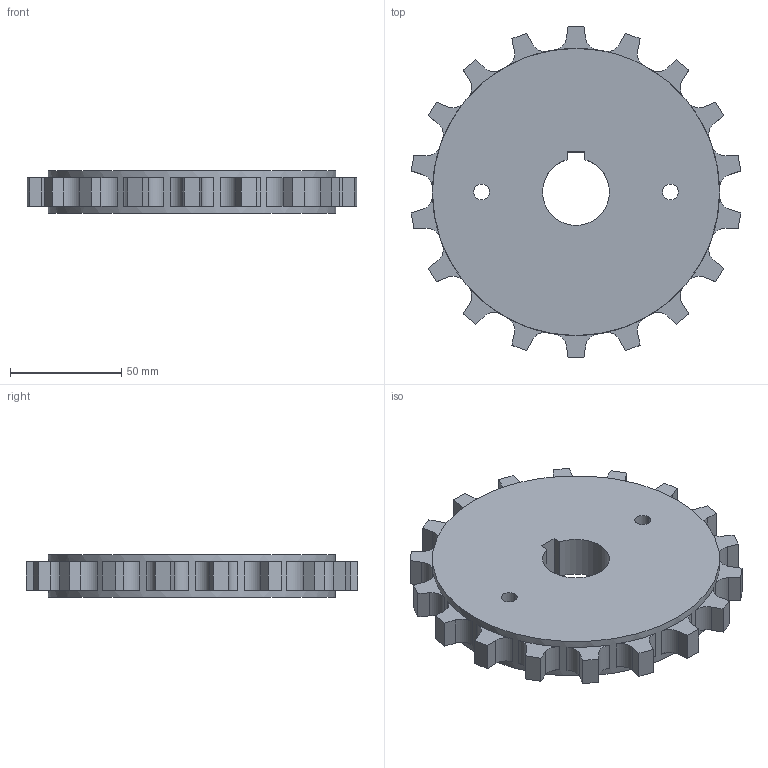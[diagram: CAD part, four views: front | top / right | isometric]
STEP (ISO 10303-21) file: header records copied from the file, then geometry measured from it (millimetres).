
FILE_DESCRIPTION((''),'2;1');
FILE_NAME('S1400_SPROCKET_57X25_PILOT','2008-12-12T',('jmumphre'),(''),'PRO/ENGINEER BY PARAMETRIC TECHNOLOGY CORPORATION, 2008150','PRO/ENGINEER BY PARAMETRIC TECHNOLOGY CORPORATION, 2008150','');
FILE_SCHEMA(('CONFIG_CONTROL_DESIGN'));
Length unit declared in the file: inch
Products named in the file (1): S1400_SPROCKET_57X25_PILOT
Bounding box: 148.02 x 149.05 x 19.05 mm (x, y, z)
Volume: 255160.1 mm3; surface area: 41825.4 mm2
Topology: 1 solids, 1 shells, 138 faces, 354 edges, 236 vertices
Faces by surface type: plane 95, cylinder 43
Entity records: 4272 total; most frequent: DIRECTION 752, CARTESIAN_POINT 728, ORIENTED_EDGE 708, EDGE_CURVE 354, AXIS2_PLACEMENT_3D 260, VERTEX_POINT 236, VECTOR 232, LINE 232
